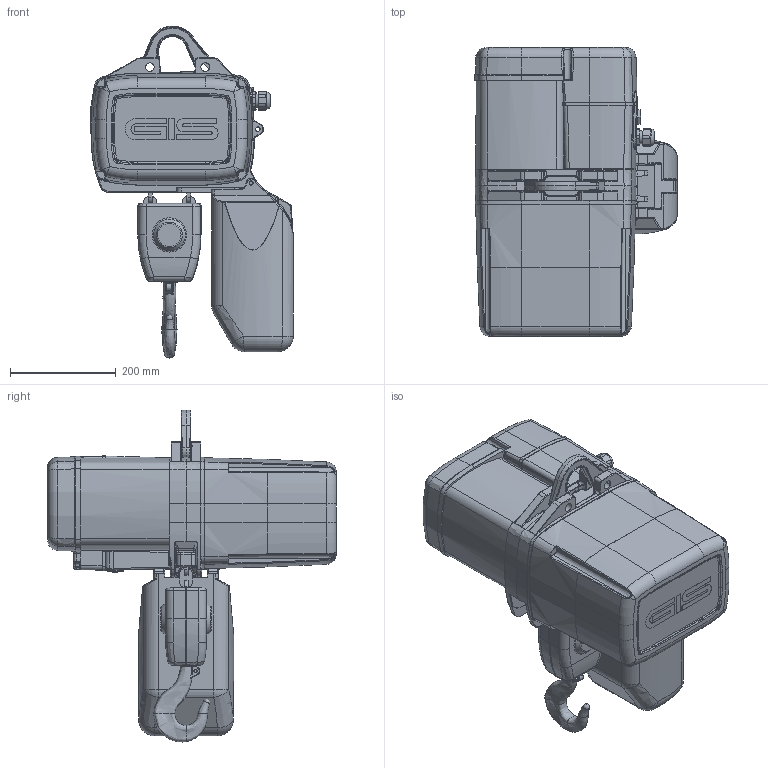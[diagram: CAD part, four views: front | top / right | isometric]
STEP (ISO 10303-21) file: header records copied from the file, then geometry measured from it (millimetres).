
FILE_DESCRIPTION(/* description */ (''),/* implementation_level */ '2;1');
FILE_NAME(/* name */ 'G:\Technik\3D-Dateien light_2015_10_02\Hebezeuge\Industrie GPM, GP\9515.9201.L GP1000 2str.stp',/* time_stamp */ '2016-09-21T13:20:47+02:00',/* author */ ('gispen'),/* organization */ (''),/* preprocessor_version */ 'ST-DEVELOPER v15.6',/* originating_system */ 'Autodesk Inventor 2015',/* authorisation */ '');
FILE_SCHEMA (('AUTOMOTIVE_DESIGN { 1 0 10303 214 3 1 1 }'));
Length unit declared in the file: millimetre
Products named in the file (1): 9515.9202.L
Bounding box: 384.17 x 547.5 x 629.05 mm (x, y, z)
Volume: 39456440.9 mm3; surface area: 1079056.8 mm2
Topology: 4 solids, 4 shells, 1741 faces, 4334 edges, 2567 vertices
Faces by surface type: bspline 498, cylinder 464, plane 388, torus 224, cone 132, sphere 35
Full cylindrical faces by diameter (mm): 6.2 x1, 8 x3, 8.5 x4, 16.5 x6, 20 x1, 22 x1, 25 x3, 29.5 x1, 30 x1
Entity records: 74355 total; most frequent: CARTESIAN_POINT 33878, ORIENTED_EDGE 8426, DIRECTION 7613, EDGE_CURVE 4213, AXIS2_PLACEMENT_3D 3078, VERTEX_POINT 2547, EDGE_LOOP 1834, STYLED_ITEM 1745
